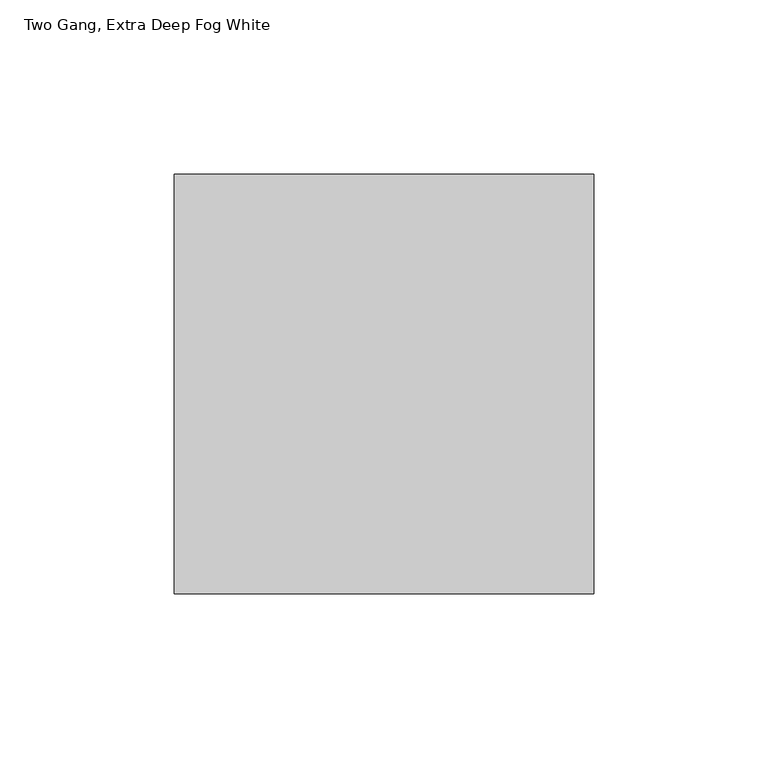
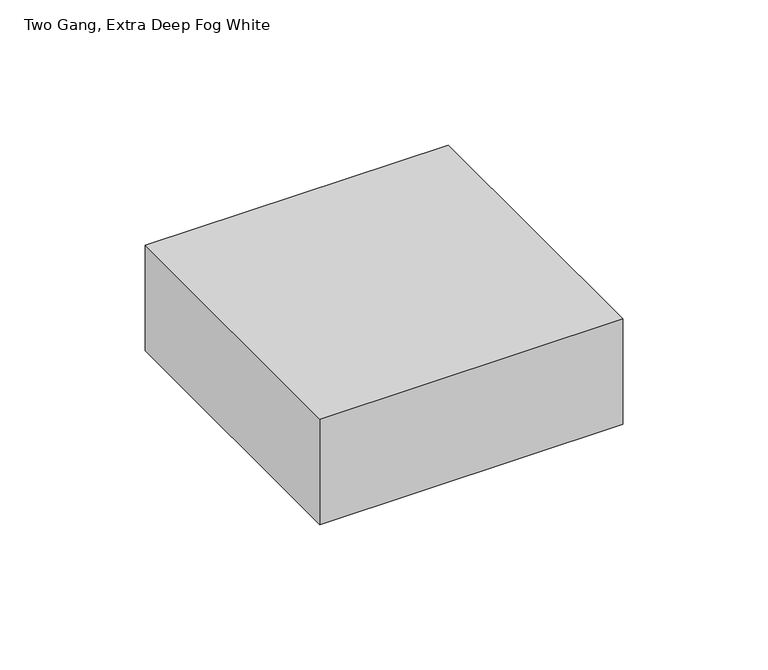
"""IFC4 building model written with IfcOpenShell, lengths in millimetres: proxy geometry, Device_Box-2400_Series-Wiremold : Two Gang, Extra Deep Fog White."""

from ifc_helpers import new_model, si_unit, origin, origin_with_axes, place, context, project, spatial, polyline, outline, extrude, source, transform, mapped, element, save


def two_gang_extra_deep_fog_white_cad744ff(model_context):
    return source(origin(), model_context, "Body", "SweptSolid", [
        extrude(outline(polyline([(60.325, 60.325), (60.325, -60.325), (-60.325, -60.325), (-60.325, 60.325), (60.325, 60.325)])), origin_with_axes(), (0.0, 0.0, 1.0), 44.45),
    ])


if __name__ == "__main__":
    model = new_model("IFC4")
    model_context = context("Model", 3, world=origin())
    ifc_project = project(units=[si_unit("LENGTHUNIT", "METRE", prefix="MILLI")], contexts=[model_context])
    site = spatial("IfcSite", under=ifc_project)
    building = spatial("IfcBuilding", under=site)
    placement = place(None, origin())
    two_gang_extra_deep_fog_white_shape = two_gang_extra_deep_fog_white_cad744ff(model_context)
    element("IfcBuildingElementProxy", 1, Name="Device_Box-2400_Series-Wiremold : Two Gang, Extra Deep Fog White", ObjectType="Device_Box-2400_Series-Wiremold : Two Gang, Extra Deep Fog White", at=placement, inside=building, context=model_context, shape_type="MappedRepresentation", body=[
        mapped(two_gang_extra_deep_fog_white_shape, transform((0.0, 0.0, 0.0), x_axis=(1.0, 0.0, 0.0), y_axis=(0.0, 1.0, 0.0), z_axis=(0.0, 0.0, 1.0))),
    ])
    save(model, "model.ifc")
